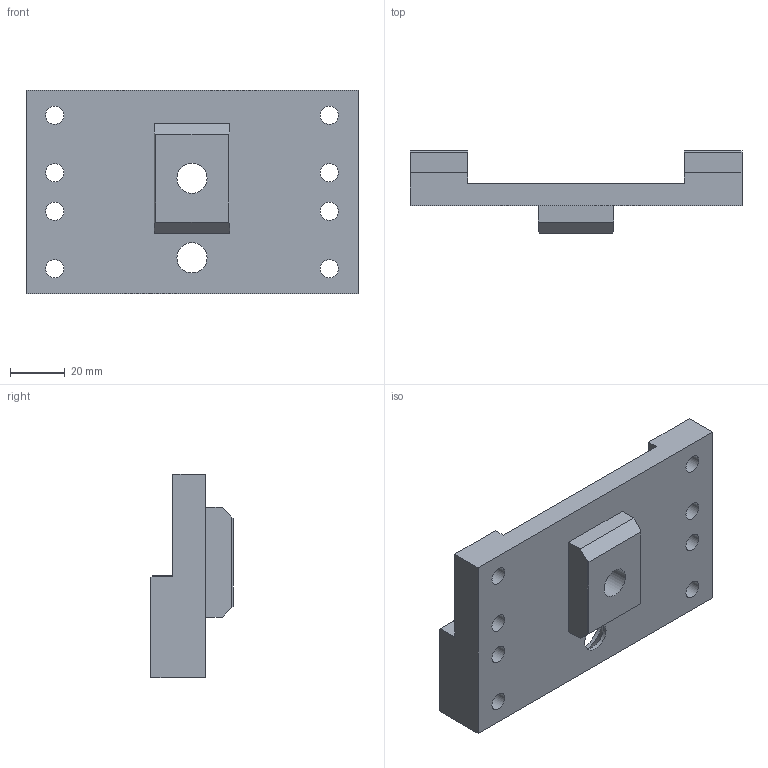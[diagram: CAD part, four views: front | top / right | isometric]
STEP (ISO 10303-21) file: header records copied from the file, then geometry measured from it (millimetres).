
FILE_DESCRIPTION(('STEP AP203'), '1');
FILE_NAME('ÒÏÏÔ1800.01.01.00.012 Ïëàòèê ëåíòû èçì1', '', ('UNSPECIFIED'), ('UNSPECIFIED'), 'C3D Converter', 'C3D Toolkit', '');
FILE_SCHEMA(('CONFIG_CONTROL_DESIGN'));
Length unit declared in the file: millimetre
Products named in the file (1): ТППФ1800.01.01.00.012
Bounding box: 121 x 30 x 74 mm (x, y, z)
Volume: 98197.1 mm3; surface area: 28068.1 mm2
Topology: 1 solids, 1 shells, 47 faces, 120 edges, 76 vertices
Faces by surface type: plane 25, cylinder 12, cone 10
Full cylindrical faces by diameter (mm): 6.647 x8, 11 x2, 21 x2
Entity records: 1756 total; most frequent: DIRECTION 226, CARTESIAN_POINT 222, ORIENTED_EDGE 196, EDGE_CURVE 98, EDGE_LOOP 90, AXIS2_PLACEMENT_3D 80, VERTEX_POINT 76, LINE 66
